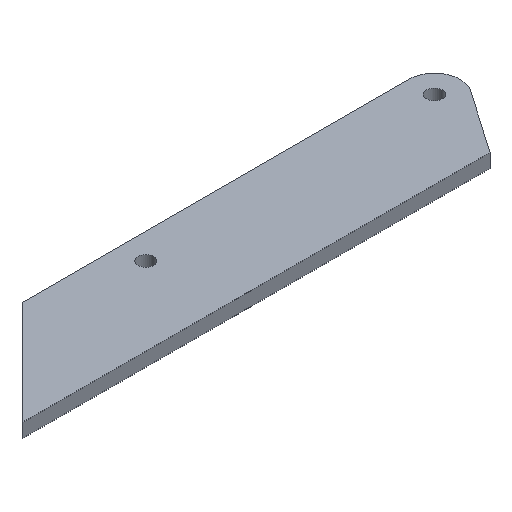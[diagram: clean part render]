
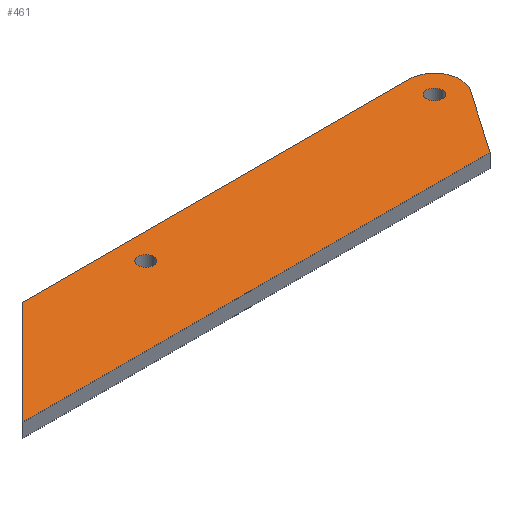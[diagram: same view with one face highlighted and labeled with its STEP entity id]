
A CAD part, isometric view. The second image highlights one B-rep face of the part: STEP entity #461.
In plain terms, the highlighted planar face has unit normal (0, 0, 1).
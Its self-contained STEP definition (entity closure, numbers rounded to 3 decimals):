
#217=PLANE('',#448);
#219=CIRCLE('',#438,15.);
#222=CIRCLE('',#447,4.5);
#223=CIRCLE('',#449,4.5);
#253=ORIENTED_EDGE('',*,*,#305,.T.);
#254=ORIENTED_EDGE('',*,*,#316,.F.);
#255=ORIENTED_EDGE('',*,*,#314,.F.);
#256=ORIENTED_EDGE('',*,*,#311,.T.);
#257=ORIENTED_EDGE('',*,*,#308,.T.);
#258=ORIENTED_EDGE('',*,*,#319,.F.);
#259=ORIENTED_EDGE('',*,*,#320,.F.);
#266=VECTOR('',#363,1.);
#269=VECTOR('',#368,1.);
#272=VECTOR('',#373,1.);
#274=VECTOR('',#377,1.);
#279=LINE('',#408,#266);
#282=LINE('',#414,#269);
#285=LINE('',#420,#272);
#287=LINE('',#423,#274);
#289=VERTEX_POINT('',#396);
#291=VERTEX_POINT('',#400);
#293=VERTEX_POINT('',#405);
#295=VERTEX_POINT('',#411);
#297=VERTEX_POINT('',#417);
#300=VERTEX_POINT('',#430);
#301=VERTEX_POINT('',#433);
#305=EDGE_CURVE('',#289,#291,#219,.T.);
#308=EDGE_CURVE('',#293,#289,#279,.T.);
#311=EDGE_CURVE('',#295,#293,#282,.T.);
#314=EDGE_CURVE('',#295,#297,#285,.T.);
#316=EDGE_CURVE('',#297,#291,#287,.T.);
#319=EDGE_CURVE('',#300,#300,#222,.T.);
#320=EDGE_CURVE('',#301,#301,#223,.T.);
#331=EDGE_LOOP('',(#253,#254,#255,#256,#257));
#332=EDGE_LOOP('',(#258));
#333=EDGE_LOOP('',(#259));
#346=FACE_BOUND('',#331,.T.);
#347=FACE_BOUND('',#332,.T.);
#348=FACE_BOUND('',#333,.T.);
#357=DIRECTION('',(0.,0.,1.));
#358=DIRECTION('',(0.,15.,0.));
#363=DIRECTION('',(25.273,36.454,0.));
#368=DIRECTION('',(269.74,0.,0.));
#373=DIRECTION('',(60.,60.,0.));
#377=DIRECTION('',(222.686,0.,0.));
#386=DIRECTION('',(0.,0.,1.));
#387=DIRECTION('',(0.,-4.5,0.));
#388=DIRECTION('',(0.,0.,1.));
#389=DIRECTION('',(0.,-1.,0.));
#390=DIRECTION('',(0.,0.,1.));
#391=DIRECTION('',(0.,-4.5,0.));
#396=CARTESIAN_POINT('',(5268.052,12982.814,8.));
#400=CARTESIAN_POINT('',(5255.725,13006.36,8.));
#402=CARTESIAN_POINT('',(5255.725,12991.36,8.));
#405=CARTESIAN_POINT('',(5242.779,12946.36,8.));
#408=CARTESIAN_POINT('',(5242.779,12946.36,8.));
#411=CARTESIAN_POINT('',(4973.039,12946.36,8.));
#414=CARTESIAN_POINT('',(4973.039,12946.36,8.));
#417=CARTESIAN_POINT('',(5033.039,13006.36,8.));
#420=CARTESIAN_POINT('',(4973.039,12946.36,8.));
#423=CARTESIAN_POINT('',(5033.039,13006.36,8.));
#430=CARTESIAN_POINT('',(5255.725,12986.86,8.));
#431=CARTESIAN_POINT('',(5255.725,12991.36,8.));
#432=CARTESIAN_POINT('',(0.,0.,8.));
#433=CARTESIAN_POINT('',(5089.504,12986.86,8.));
#434=CARTESIAN_POINT('',(5089.504,12991.36,8.));
#438=AXIS2_PLACEMENT_3D('',#402,#357,#358);
#447=AXIS2_PLACEMENT_3D('',#431,#386,#387);
#448=AXIS2_PLACEMENT_3D('',#432,#388,#389);
#449=AXIS2_PLACEMENT_3D('',#434,#390,#391);
#461=ADVANCED_FACE('',(#346,#347,#348),#217,.T.);
